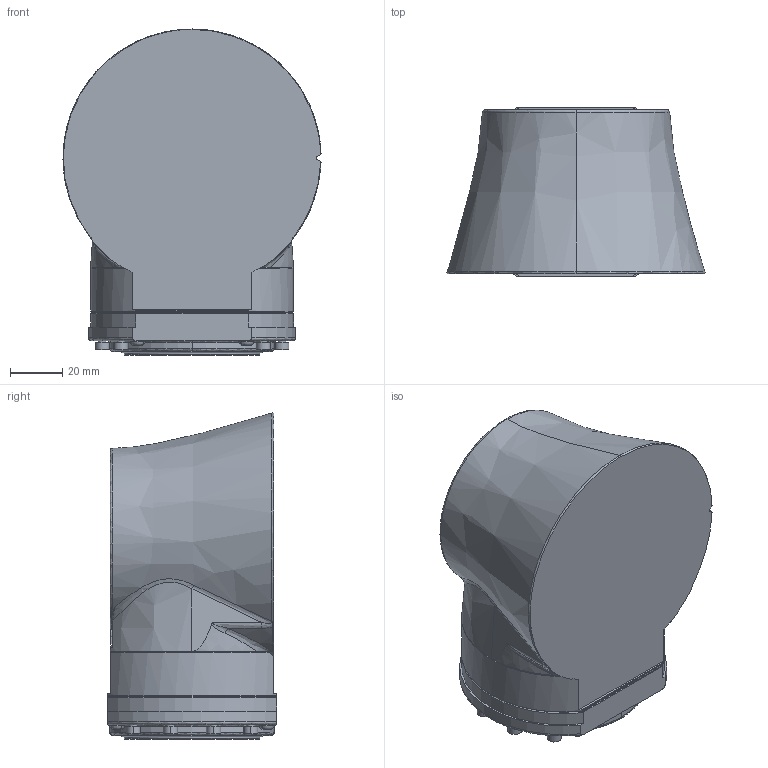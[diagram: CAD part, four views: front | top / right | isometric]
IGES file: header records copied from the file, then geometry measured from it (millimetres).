
Start section:  PTC IGES file: b_view_yr-n1-06vx7-c00.igs
Global section: file name: b_view_yr-n1-06vx7-c00.igs; native system: Creo Parametric by PTC Inc.; preprocessor: 2021072; author: mttm21; organization: Unknown; date: 20250919.181727; units: millimetre
Bounding box: 99.17 x 65 x 125.3 mm (x, y, z)
Volume: 510752.5 mm3; surface area: 39459.8 mm2
Topology: 1 solids, 1 shells, 477 faces, 1256 edges, 817 vertices
Faces by surface type: bspline 383, revolution 94
